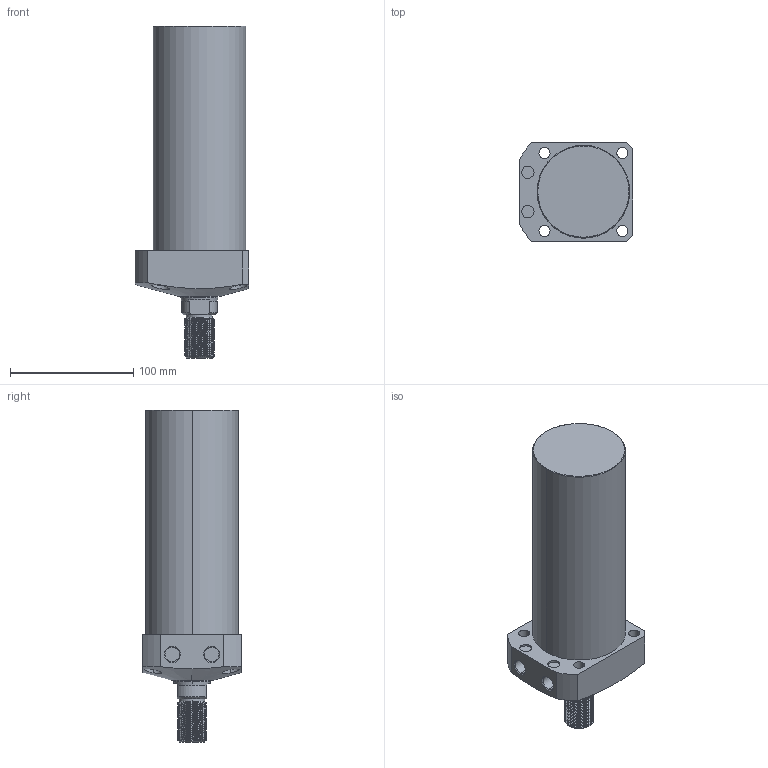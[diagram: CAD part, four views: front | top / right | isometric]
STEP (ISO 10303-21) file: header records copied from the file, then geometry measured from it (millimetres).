
FILE_DESCRIPTION (( 'STEP AP203' ), '1' );
FILE_NAME ('CLL-075CT-145.STEP', '2020-01-08T12:10:53', ( '' ), ( '' ), 'SwSTEP 2.0', 'SolidWorks 2015', '' );
FILE_SCHEMA (( 'CONFIG_CONTROL_DESIGN' ));
Length unit declared in the file: millimetre
Products named in the file (1): CLL-075CT-145
Bounding box: 92 x 80 x 269 mm (x, y, z)
Volume: 1045309.9 mm3; surface area: 77676.6 mm2
Topology: 1 solids, 1 shells, 121 faces, 310 edges, 202 vertices
Faces by surface type: cylinder 77, plane 23, cone 17, torus 2, bspline 2
Entity records: 6528 total; most frequent: CARTESIAN_POINT 3738, ORIENTED_EDGE 620, DIRECTION 517, EDGE_CURVE 310, AXIS2_PLACEMENT_3D 204, VERTEX_POINT 202, EDGE_LOOP 140, FACE_OUTER_BOUND 121
